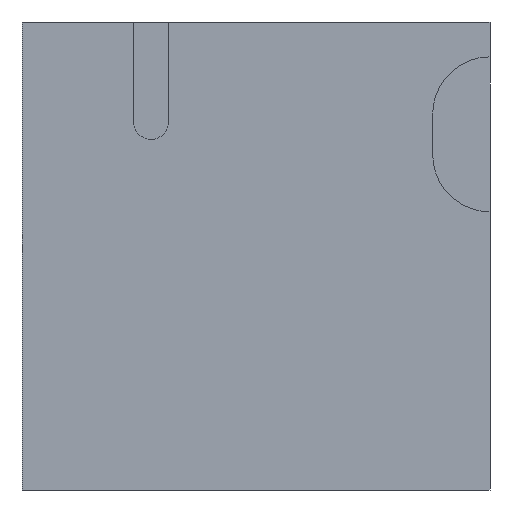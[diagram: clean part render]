
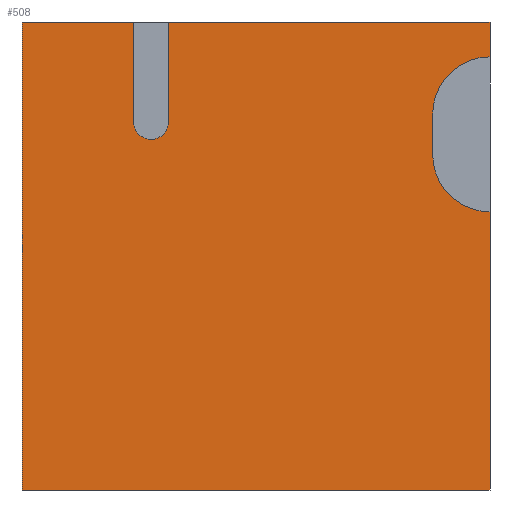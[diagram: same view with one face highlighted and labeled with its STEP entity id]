
A CAD part, left-side view. The second image highlights one B-rep face of the part: STEP entity #508.
In plain terms, the highlighted planar face has unit normal (-1, 0, 0).
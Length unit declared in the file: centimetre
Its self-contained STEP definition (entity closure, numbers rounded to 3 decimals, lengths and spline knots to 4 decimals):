
#7 = VERTEX_POINT ( 'NONE', #374 ) ;
#13 = ORIENTED_EDGE ( 'NONE', *, *, #66, .F. ) ;
#14 = CARTESIAN_POINT ( 'NONE',  ( 0., 122.4566, 803.1277 ) ) ;
#30 = DIRECTION ( 'NONE',  ( 0., 0., -1. ) ) ;
#42 = DIRECTION ( 'NONE',  ( -1., 0., 0. ) ) ;
#45 = CARTESIAN_POINT ( 'NONE',  ( 0., 1000., 1000. ) ) ;
#48 = FACE_OUTER_BOUND ( 'NONE', #112, .T. ) ;
#54 = CIRCLE ( 'NONE', #427, 122.4566 ) ;
#66 = EDGE_CURVE ( 'NONE', #304, #230, #54, .T. ) ;
#73 = ORIENTED_EDGE ( 'NONE', *, *, #486, .F. ) ;
#83 = ORIENTED_EDGE ( 'NONE', *, *, #305, .T. ) ;
#86 = CARTESIAN_POINT ( 'NONE',  ( 0., 0., 0. ) ) ;
#89 = LINE ( 'NONE', #650, #693 ) ;
#92 = CARTESIAN_POINT ( 'NONE',  ( 0., 0., 716.8544 ) ) ;
#93 = CIRCLE ( 'NONE', #568, 37.425 ) ;
#97 = CARTESIAN_POINT ( 'NONE',  ( 0., 724.1701, 786.687 ) ) ;
#101 = LINE ( 'NONE', #548, #313 ) ;
#106 = EDGE_CURVE ( 'NONE', #7, #312, #544, .T. ) ;
#109 = DIRECTION ( 'NONE',  ( 0., 0., -1. ) ) ;
#112 = EDGE_LOOP ( 'NONE', ( #495, #579, #393, #202, #83, #412, #13, #367, #168, #476, #73, #176 ) ) ;
#119 = VECTOR ( 'NONE', #30, 100. ) ;
#132 = CARTESIAN_POINT ( 'NONE',  ( 0., 0., 803.1277 ) ) ;
#145 = DIRECTION ( 'NONE',  ( 0., 0., 1. ) ) ;
#149 = DIRECTION ( 'NONE',  ( -1., 0., 0. ) ) ;
#150 = CARTESIAN_POINT ( 'NONE',  ( 0., 761.5952, 1000. ) ) ;
#168 = ORIENTED_EDGE ( 'NONE', *, *, #421, .F. ) ;
#176 = ORIENTED_EDGE ( 'NONE', *, *, #106, .F. ) ;
#189 = CARTESIAN_POINT ( 'NONE',  ( 0., 761.5952, 1000. ) ) ;
#192 = CIRCLE ( 'NONE', #319, 122.4566 ) ;
#202 = ORIENTED_EDGE ( 'NONE', *, *, #376, .T. ) ;
#207 = CARTESIAN_POINT ( 'NONE',  ( 0., 0., 1000. ) ) ;
#208 = VECTOR ( 'NONE', #574, 100. ) ;
#227 = CARTESIAN_POINT ( 'NONE',  ( 0., 0., 1000. ) ) ;
#230 = VERTEX_POINT ( 'NONE', #502 ) ;
#248 = DIRECTION ( 'NONE',  ( 0., 0., -1. ) ) ;
#282 = CARTESIAN_POINT ( 'NONE',  ( 0., 0., 1000. ) ) ;
#284 = VECTOR ( 'NONE', #599, 100. ) ;
#293 = VERTEX_POINT ( 'NONE', #14 ) ;
#297 = VERTEX_POINT ( 'NONE', #451 ) ;
#304 = VERTEX_POINT ( 'NONE', #669 ) ;
#305 = EDGE_CURVE ( 'NONE', #372, #540, #622, .T. ) ;
#312 = VERTEX_POINT ( 'NONE', #671 ) ;
#313 = VECTOR ( 'NONE', #644, 100. ) ;
#319 = AXIS2_PLACEMENT_3D ( 'NONE', #132, #42, #145 ) ;
#329 = DIRECTION ( 'NONE',  ( 0., 0., 1. ) ) ;
#349 = CARTESIAN_POINT ( 'NONE',  ( 0., 1000., 0. ) ) ;
#353 = EDGE_CURVE ( 'NONE', #293, #304, #467, .T. ) ;
#366 = LINE ( 'NONE', #528, #119 ) ;
#367 = ORIENTED_EDGE ( 'NONE', *, *, #353, .F. ) ;
#372 = VERTEX_POINT ( 'NONE', #633 ) ;
#374 = CARTESIAN_POINT ( 'NONE',  ( 0., 686.7451, 786.687 ) ) ;
#376 = EDGE_CURVE ( 'NONE', #465, #372, #366, .T. ) ;
#380 = DIRECTION ( 'NONE',  ( 1., 0., 0. ) ) ;
#385 = CARTESIAN_POINT ( 'NONE',  ( 0., 686.7451, 786.687 ) ) ;
#393 = ORIENTED_EDGE ( 'NONE', *, *, #555, .F. ) ;
#412 = ORIENTED_EDGE ( 'NONE', *, *, #477, .F. ) ;
#418 = VERTEX_POINT ( 'NONE', #189 ) ;
#421 = EDGE_CURVE ( 'NONE', #297, #293, #192, .T. ) ;
#422 = DIRECTION ( 'NONE',  ( 0., 0., -1. ) ) ;
#427 = AXIS2_PLACEMENT_3D ( 'NONE', #92, #149, #488 ) ;
#435 = DIRECTION ( 'NONE',  ( -1., 0., 0. ) ) ;
#442 = CARTESIAN_POINT ( 'NONE',  ( 0., 761.5952, 786.687 ) ) ;
#447 = LINE ( 'NONE', #227, #542 ) ;
#451 = CARTESIAN_POINT ( 'NONE',  ( 0., 0., 925.5843 ) ) ;
#453 = EDGE_CURVE ( 'NONE', #685, #7, #93, .T. ) ;
#464 = VECTOR ( 'NONE', #329, 100. ) ;
#465 = VERTEX_POINT ( 'NONE', #591 ) ;
#467 = LINE ( 'NONE', #585, #649 ) ;
#472 = AXIS2_PLACEMENT_3D ( 'NONE', #45, #380, #422 ) ;
#476 = ORIENTED_EDGE ( 'NONE', *, *, #615, .F. ) ;
#477 = EDGE_CURVE ( 'NONE', #230, #540, #545, .T. ) ;
#479 = EDGE_CURVE ( 'NONE', #418, #685, #653, .T. ) ;
#481 = DIRECTION ( 'NONE',  ( 0., 0., -1. ) ) ;
#486 = EDGE_CURVE ( 'NONE', #312, #608, #89, .T. ) ;
#488 = DIRECTION ( 'NONE',  ( 0., 0., 1. ) ) ;
#495 = ORIENTED_EDGE ( 'NONE', *, *, #453, .F. ) ;
#502 = CARTESIAN_POINT ( 'NONE',  ( 0., 0., 594.3979 ) ) ;
#504 = VECTOR ( 'NONE', #481, 100. ) ;
#508 = ADVANCED_FACE ( 'NONE', ( #48 ), #593, .F. ) ;
#528 = CARTESIAN_POINT ( 'NONE',  ( 0., 1000., 1000. ) ) ;
#540 = VERTEX_POINT ( 'NONE', #86 ) ;
#542 = VECTOR ( 'NONE', #109, 100. ) ;
#544 = LINE ( 'NONE', #385, #464 ) ;
#545 = LINE ( 'NONE', #207, #504 ) ;
#548 = CARTESIAN_POINT ( 'NONE',  ( 0., 1000., 1000. ) ) ;
#555 = EDGE_CURVE ( 'NONE', #465, #418, #101, .T. ) ;
#568 = AXIS2_PLACEMENT_3D ( 'NONE', #97, #435, #656 ) ;
#574 = DIRECTION ( 'NONE',  ( 0., -1., 0. ) ) ;
#579 = ORIENTED_EDGE ( 'NONE', *, *, #479, .F. ) ;
#585 = CARTESIAN_POINT ( 'NONE',  ( 0., 122.4566, 803.1277 ) ) ;
#591 = CARTESIAN_POINT ( 'NONE',  ( 0., 1000., 1000. ) ) ;
#593 = PLANE ( 'NONE',  #472 ) ;
#599 = DIRECTION ( 'NONE',  ( 0., 0., -1. ) ) ;
#608 = VERTEX_POINT ( 'NONE', #282 ) ;
#615 = EDGE_CURVE ( 'NONE', #608, #297, #447, .T. ) ;
#622 = LINE ( 'NONE', #349, #208 ) ;
#633 = CARTESIAN_POINT ( 'NONE',  ( 0., 1000., 0. ) ) ;
#644 = DIRECTION ( 'NONE',  ( 0., -1., 0. ) ) ;
#649 = VECTOR ( 'NONE', #248, 100. ) ;
#650 = CARTESIAN_POINT ( 'NONE',  ( 0., 1000., 1000. ) ) ;
#653 = LINE ( 'NONE', #150, #284 ) ;
#656 = DIRECTION ( 'NONE',  ( 0., 0., 1. ) ) ;
#669 = CARTESIAN_POINT ( 'NONE',  ( 0., 122.4566, 716.8544 ) ) ;
#671 = CARTESIAN_POINT ( 'NONE',  ( 0., 686.7451, 1000. ) ) ;
#685 = VERTEX_POINT ( 'NONE', #442 ) ;
#693 = VECTOR ( 'NONE', #699, 100. ) ;
#699 = DIRECTION ( 'NONE',  ( 0., -1., 0. ) ) ;
